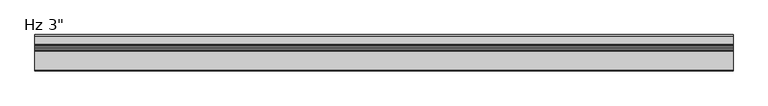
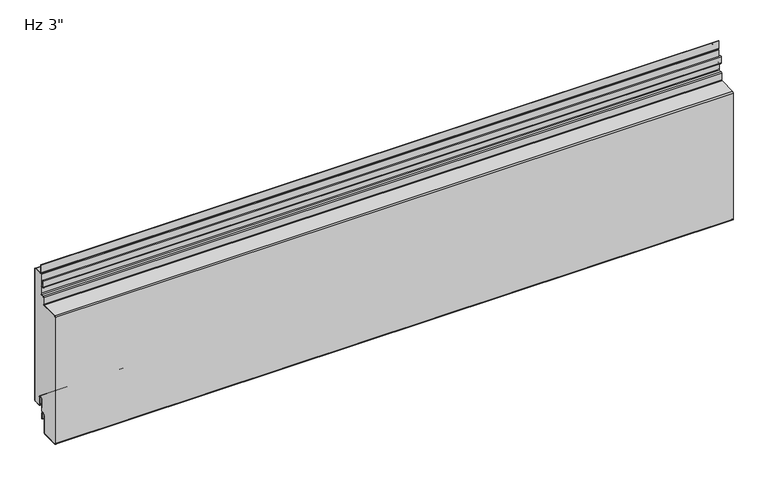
"""IFC4 building model written with IfcOpenShell, lengths in millimetres: plate geometry."""

from ifc_helpers import new_model, si_unit, point, frame, frame_2d, origin, place, context, project, spatial, polyline, circle_curve, ellipse_curve, trimmed, segment, composite_curve, outline, extrude, source, transform, mapped, element, save
from ifc_brep_helpers import plane_surface, cylinder_surface, revolved_surface, extruded_surface, advanced_brep


def plate_6b0bea77(model_context):
    return source(origin(), model_context, "Body", "SolidModel", [
        extrude(outline(composite_curve([segment(polyline([(-22.8122051, 259.7620957), (-22.8122051, 303.00625), (-2.3809551, 303.00625)]), True, "CONTINUOUS"), segment(trimmed(circle_curve(frame_2d((-2.3809551, 301.625)), 1.38125), [point((-2.3809551, 303.00625))], [point((-0.9997051, 301.625))], False, "CARTESIAN"), True, "CONTINUOUS"), segment(polyline([(-0.9997051, 301.625), (-0.9997051, 3.175)]), True, "CONTINUOUS"), segment(trimmed(circle_curve(frame_2d((-2.3809551, 3.175)), 1.38125), [point((-0.9997051, 3.175))], [point((-2.3809551, 1.79375))], False, "CARTESIAN"), True, "CONTINUOUS"), segment(polyline([(-2.3809551, 1.79375), (-15.0809548, 1.79375)]), True, "CONTINUOUS"), segment(trimmed(circle_curve(frame_2d((-15.0809548, 3.175)), 1.38125), [point((-15.0809548, 1.79375))], [point((-16.4622048, 3.175))], False, "CARTESIAN"), True, "CONTINUOUS"), segment(polyline([(-16.4622048, 3.175), (-16.4622048, 19.05)]), True, "CONTINUOUS"), segment(trimmed(circle_curve(frame_2d((-21.4309548, 19.05)), 4.96875), [point((-16.4622048, 19.05))], [point((-26.3997048, 19.05))], True, "CARTESIAN"), True, "CONTINUOUS"), segment(polyline([(-26.3997048, 19.05), (-26.3997048, -6.9378562), (-30.952521, -6.9378562)]), True, "CONTINUOUS"), segment(trimmed(circle_curve(frame_2d((-30.952521, -11.9060719)), 4.9682158), [point((-30.952521, -6.9378562))], [point((-35.9207368, -11.9060719))], True, "CARTESIAN"), True, "CONTINUOUS"), segment(polyline([(-35.9207368, -11.9060719), (-35.9207368, -49.8864779)]), True, "CONTINUOUS"), segment(trimmed(circle_curve(frame_2d((-37.3041083, -49.8864779)), 1.3833715), [point((-35.9207368, -49.8864779))], [point((-37.2046907, -51.2662724))], False, "CARTESIAN"), True, "CONTINUOUS"), segment(polyline([(-37.2046907, -51.2662724), (-73.8625914, -51.8500263)]), True, "CONTINUOUS"), segment(trimmed(circle_curve(frame_2d((-73.8185889, -50.4693162)), 1.3814111), [point((-73.8625914, -51.8500263))], [point((-75.2, -50.4693162))], False, "CARTESIAN"), True, "CONTINUOUS"), segment(polyline([(-75.2, -50.4693162), (-75.2, 236.8593805)]), True, "CONTINUOUS"), segment(trimmed(circle_curve(frame_2d((-73.8180277, 236.8593805)), 1.3819723), [point((-75.2, 236.8593805))], [point((-73.9050684, 238.2386091))], False, "CARTESIAN"), True, "CONTINUOUS"), segment(polyline([(-73.9050684, 238.2386091), (-34.8138889, 238.9809457)]), True, "CONTINUOUS"), segment(trimmed(circle_curve(frame_2d((-34.9308757, 241.5793906)), 2.601077), [point((-34.8138889, 238.9809457))], [point((-32.3297987, 241.5793906))], True, "CARTESIAN"), True, "CONTINUOUS"), segment(polyline([(-32.3297987, 241.5793906), (-32.3297987, 255.4979098)]), True, "CONTINUOUS"), segment(trimmed(circle_curve(frame_2d((-30.9520524, 255.4979098)), 1.3777463), [point((-32.3297987, 255.4979098))], [point((-31.0261331, 256.873663))], False, "CARTESIAN"), True, "CONTINUOUS"), segment(polyline([(-31.0261331, 256.873663), (-25.2631616, 257.1782012)]), True, "CONTINUOUS"), segment(trimmed(circle_curve(frame_2d((-25.3997048, 259.7620957)), 2.5874998), [point((-25.2631616, 257.1782012))], [point((-22.8122051, 259.7620957))], True, "CARTESIAN"), True, "CONTINUOUS")], self_intersect=False)), frame((-730.0, 0.0, 0.0), z_axis=(1.0, 0.0, 0.0), x_axis=(0.0, 1.0, 0.0)), (0.0, 0.0, 1.0), 1460.0),
        extrude(outline(composite_curve([segment(polyline([(-25.4, 0.79375), (-26.4, 0.79375), (-26.4, 19.05)]), True, "CONTINUOUS"), segment(trimmed(circle_curve(frame_2d((-21.43125, 19.05)), 4.96875), [point((-26.4, 19.05))], [point((-16.4625, 19.05))], False, "CARTESIAN"), True, "CONTINUOUS"), segment(polyline([(-16.4625, 19.05), (-16.4625, 3.175)]), True, "CONTINUOUS"), segment(trimmed(circle_curve(frame_2d((-15.08125, 3.175)), 1.38125), [point((-16.4625, 3.175))], [point((-15.08125, 1.79375))], True, "CARTESIAN"), True, "CONTINUOUS"), segment(polyline([(-15.08125, 1.79375), (-2.38125, 1.79375)]), True, "CONTINUOUS"), segment(trimmed(circle_curve(frame_2d((-2.38125, 3.175)), 1.38125), [point((-2.38125, 1.79375))], [point((-1.0, 3.175))], True, "CARTESIAN"), True, "CONTINUOUS"), segment(polyline([(-1.0, 3.175), (-1.0, 301.625)]), True, "CONTINUOUS"), segment(trimmed(circle_curve(frame_2d((-2.38125, 301.625)), 1.38125), [point((-1.0, 301.625))], [point((-2.38125, 303.00625))], True, "CARTESIAN"), True, "CONTINUOUS"), segment(polyline([(-2.38125, 303.00625), (-19.446875, 303.00625)]), True, "CONTINUOUS"), segment(trimmed(circle_curve(frame_2d((-19.446875, 305.59375)), 2.5875), [point((-19.446875, 303.00625))], [point((-22.034375, 305.59375))], False, "CARTESIAN"), True, "CONTINUOUS"), segment(polyline([(-22.034375, 305.59375), (-22.034375, 323.05625), (-21.034375, 323.05625), (-21.034375, 305.59375)]), True, "CONTINUOUS"), segment(trimmed(circle_curve(frame_2d((-19.446875, 305.59375)), 1.5875), [point((-21.034375, 305.59375))], [point((-19.446875, 304.00625))], True, "CARTESIAN"), True, "CONTINUOUS"), segment(polyline([(-19.446875, 304.00625), (-2.38125, 304.00625)]), True, "CONTINUOUS"), segment(trimmed(circle_curve(frame_2d((-2.38125, 301.625)), 2.38125), [point((-2.38125, 304.00625))], [point((0.0, 301.625))], False, "CARTESIAN"), True, "CONTINUOUS"), segment(polyline([(0.0, 301.625), (0.0, 3.175)]), True, "CONTINUOUS"), segment(trimmed(circle_curve(frame_2d((-2.38125, 3.175)), 2.38125), [point((0.0, 3.175))], [point((-2.38125, 0.79375))], False, "CARTESIAN"), True, "CONTINUOUS"), segment(polyline([(-2.38125, 0.79375), (-15.08125, 0.79375)]), True, "CONTINUOUS"), segment(trimmed(circle_curve(frame_2d((-15.08125, 3.175)), 2.38125), [point((-15.08125, 0.79375))], [point((-17.4625, 3.175))], False, "CARTESIAN"), True, "CONTINUOUS"), segment(polyline([(-17.4625, 3.175), (-17.4625, 19.05)]), True, "CONTINUOUS"), segment(trimmed(circle_curve(frame_2d((-21.43125, 19.05)), 3.96875), [point((-17.4625, 19.05))], [point((-25.4, 19.05))], True, "CARTESIAN"), True, "CONTINUOUS"), segment(polyline([(-25.4, 19.05), (-25.4, 0.79375)]), True, "CONTINUOUS")], self_intersect=False)), frame((-730.0, 0.0, 0.0), z_axis=(1.0, 0.0, 0.0), x_axis=(0.0, 1.0, 0.0)), (0.0, 0.0, 1.0), 1460.0),
        advanced_brep(
        [(-730.0, -25.4, -23.2171875), (-730.0, -26.9875, -23.2171875), (-730.0, -26.9875, -11.90625), (-730.0, -34.9235365, -11.90625), (-730.0, -34.9235365, -49.8867763), (-730.0, -37.180907, -52.2655484), (-730.0, -73.8674722, -52.8501201), (-730.0, -76.2, -50.4693686), (-730.0, -76.2, 236.8615956), (-730.0, -73.943409, 239.2395804), (-730.0, -34.8409333, 239.9568264), (-730.0, -33.335518, 241.5432031), (-730.0, -33.335518, 255.4970298), (-730.0, -31.080058, 257.8740657), (-730.0, -25.3167321, 258.176781), (-730.0, -23.8125, 259.7620957), (-730.0, -23.8125, 274.6375), (-730.0, -25.4, 276.225), (-730.0, -29.5671875, 276.225), (-730.0, -31.9484375, 278.60625), (-730.0, -31.9484375, 293.0978706), (-730.0, -30.1546875, 293.0978706), (-730.0, -30.1546875, 283.36875), (-730.0, -30.9484375, 283.36875), (-730.0, -30.9484375, 278.60625), (-730.0, -29.5671875, 277.225), (-730.0, -25.4, 277.225), (-730.0, -22.8125, 274.6375), (-730.0, -22.8125, 259.7620957), (-730.0, -25.2643108, 257.178156), (-730.0, -31.0277025, 256.8755067), (-730.0, -32.3357231, 255.4969966), (-730.0, -32.3357231, 241.5432226), (-730.0, -34.8077585, 238.9573879), (-730.0, -73.9057453, 238.2401033), (-730.0, -75.2, 236.8615956), (-730.0, -75.2, -50.4693686), (-730.0, -73.730714, -51.8478244), (-730.0, -37.2049859, -51.2662724), (-730.0, -35.9213722, -49.9171557), (-730.0, -35.9213722, -11.90625), (-730.0, -25.9875, -11.90625), (-730.0, -26.19375, -13.49375), (-730.0, -25.4, -13.49375), (730.0, -25.4, -23.2171875), (730.0, -25.4, -13.49375), (730.0, -26.19375, -13.49375), (730.0, -25.9875, -11.90625), (730.0, -35.9213722, -11.90625), (730.0, -35.9213722, -49.9171557), (730.0, -37.2049859, -51.2662724), (730.0, -73.8628015, -51.8499275), (730.0, -75.1999873, -50.4693656), (730.0, -75.2, 236.8615956), (730.0, -73.9057453, 238.2401033), (730.0, -34.8077585, 238.9573879), (730.0, -32.3357231, 241.5432226), (730.0, -32.3357231, 255.4969966), (730.0, -31.0277025, 256.8755067), (730.0, -25.2643108, 257.178156), (730.0, -22.8125, 259.7620957), (730.0, -22.8125, 274.6375), (730.0, -25.4, 277.225), (730.0, -29.5671875, 277.225), (730.0, -30.9484375, 278.60625), (730.0, -30.9484375, 283.36875), (730.0, -30.1546875, 283.36875), (730.0, -30.1546875, 293.0978706), (730.0, -31.9484375, 293.0978706), (730.0, -31.9484375, 278.60625), (730.0, -29.5671875, 276.225), (730.0, -25.4, 276.225), (730.0, -23.8125, 274.6375), (730.0, -23.8125, 259.7620957), (730.0, -25.3167321, 258.176781), (730.0, -31.080058, 257.8740657), (730.0, -33.335518, 255.4970298), (730.0, -33.335518, 241.5432031), (730.0, -34.8409333, 239.9568264), (730.0, -73.943409, 239.2395804), (730.0, -76.2, 236.8615956), (730.0, -76.2, -50.4693686), (730.0, -73.8674722, -52.8501201), (730.0, -37.180907, -52.2655484), (730.0, -34.9235365, -49.8867763), (730.0, -34.9235365, -11.90625), (730.0, -26.9875, -11.90625), (730.0, -26.9875, -23.2171875)],
        [
            (0, 1, circle_curve(frame((-730.0, -26.19375, -23.2171875), z_axis=(-1.0, 0.0, 0.0), x_axis=(0.0, 0.0, -1.0)), 0.79375)),
            (1, 2),
            (2, 3, circle_curve(frame((-730.0, -30.9555183, -11.90625), z_axis=(1.0, 0.0, 0.0), x_axis=(0.0, 0.0, -1.0)), 3.9680183)),
            (3, 4),
            (4, 5, circle_curve(frame((-730.0, -37.3055732, -49.8867763), z_axis=(-1.0, 0.0, 0.0), x_axis=(0.0, 0.0, -1.0)), 2.3820366)),
            (5, 6),
            (6, 7, circle_curve(frame((-730.0, -73.81875, -50.4693686), z_axis=(-1.0, 0.0, 0.0), x_axis=(0.0, 0.0, -1.0)), 2.38125)),
            (7, 8),
            (8, 9, circle_curve(frame((-730.0, -73.81875, 236.8615956), z_axis=(-1.0, 0.0, 0.0), x_axis=(0.0, 0.0, -1.0)), 2.38125)),
            (9, 10),
            (10, 11, circle_curve(frame((-730.0, -34.9240718, 241.5432031), z_axis=(1.0, 0.0, 0.0), x_axis=(0.0, 0.0, -1.0)), 1.5885537)),
            (11, 12),
            (12, 13, circle_curve(frame((-730.0, -30.9552056, 255.4970298), z_axis=(-1.0, 0.0, 0.0), x_axis=(0.0, 0.0, -1.0)), 2.3803125)),
            (13, 14),
            (14, 15, circle_curve(frame((-730.0, -25.4, 259.7620957), z_axis=(1.0, 0.0, 0.0), x_axis=(0.0, 0.0, -1.0)), 1.5875)),
            (15, 16),
            (16, 17, circle_curve(frame((-730.0, -25.4, 274.6375), z_axis=(1.0, 0.0, 0.0), x_axis=(0.0, 0.0, -1.0)), 1.5875)),
            (17, 18),
            (18, 19, circle_curve(frame((-730.0, -29.5671875, 278.60625), z_axis=(-1.0, 0.0, 0.0), x_axis=(0.0, 0.0, -1.0)), 2.38125)),
            (19, 20),
            (20, 21, ellipse_curve(frame((-730.0, -31.0515625, 293.0978706), z_axis=(-1.0, 0.0, 0.0), x_axis=(0.0, 1.0, 0.0)), 0.896875, 0.7852275)),
            (21, 22),
            (22, 23),
            (23, 24),
            (24, 25, circle_curve(frame((-730.0, -29.5671875, 278.60625), z_axis=(1.0, 0.0, 0.0), x_axis=(0.0, 0.0, -1.0)), 1.38125)),
            (25, 26),
            (26, 27, circle_curve(frame((-730.0, -25.4, 274.6375), z_axis=(-1.0, 0.0, 0.0), x_axis=(0.0, 0.0, -1.0)), 2.5875)),
            (27, 28),
            (28, 29, circle_curve(frame((-730.0, -25.4, 259.7620957), z_axis=(-1.0, 0.0, 0.0), x_axis=(0.0, 0.0, -1.0)), 2.5875)),
            (29, 30),
            (30, 31, circle_curve(frame((-730.0, -30.9553137, 255.4969966), z_axis=(1.0, 0.0, 0.0), x_axis=(0.0, 0.0, -1.0)), 1.3804094)),
            (31, 32),
            (32, 33, circle_curve(frame((-730.0, -34.9241772, 241.5432226), z_axis=(-1.0, 0.0, 0.0), x_axis=(0.0, 0.0, -1.0)), 2.5884541)),
            (33, 34),
            (34, 35, circle_curve(frame((-730.0, -73.81875, 236.8615956), z_axis=(1.0, 0.0, 0.0), x_axis=(0.0, 0.0, -1.0)), 1.38125)),
            (35, 36),
            (36, 37, circle_curve(frame((-730.0, -73.8187219, -50.4693656), z_axis=(1.0, 0.0, 0.0), x_axis=(0.0, 0.0, -1.0)), 1.3812654)),
            (37, 38),
            (38, 39, circle_curve(frame((-730.0, -37.3044035, -49.8864779), z_axis=(1.0, 0.0, 0.0), x_axis=(0.0, 0.0, -1.0)), 1.3833715)),
            (39, 40),
            (40, 41, circle_curve(frame((-730.0, -30.9544361, -11.90625), z_axis=(-1.0, 0.0, 0.0), x_axis=(0.0, 0.0, -1.0)), 4.9669361)),
            (41, 42),
            (42, 43),
            (43, 0),
            (44, 45),
            (45, 46),
            (46, 47),
            (47, 48, circle_curve(frame((730.0, -30.9544361, -11.90625), z_axis=(1.0, 0.0, 0.0), x_axis=(0.0, 0.0, -1.0)), 4.9669361)),
            (48, 49),
            (49, 50, circle_curve(frame((730.0, -37.3044035, -49.8864779), z_axis=(-1.0, 0.0, 0.0), x_axis=(0.0, 0.0, -1.0)), 1.3833715)),
            (50, 51),
            (51, 52, circle_curve(frame((730.0, -73.8187219, -50.4693656), z_axis=(-1.0, 0.0, 0.0), x_axis=(0.0, 0.0, -1.0)), 1.3812654)),
            (52, 53),
            (53, 54, circle_curve(frame((730.0, -73.81875, 236.8615956), z_axis=(-1.0, 0.0, 0.0), x_axis=(0.0, 0.0, -1.0)), 1.38125)),
            (54, 55),
            (55, 56, circle_curve(frame((730.0, -34.9241772, 241.5432226), z_axis=(1.0, 0.0, 0.0), x_axis=(0.0, 0.0, -1.0)), 2.5884541)),
            (56, 57),
            (57, 58, circle_curve(frame((730.0, -30.9553137, 255.4969966), z_axis=(-1.0, 0.0, 0.0), x_axis=(0.0, 0.0, -1.0)), 1.3804094)),
            (58, 59),
            (59, 60, circle_curve(frame((730.0, -25.4, 259.7620957), z_axis=(1.0, 0.0, 0.0), x_axis=(0.0, 0.0, -1.0)), 2.5875)),
            (60, 61),
            (61, 62, circle_curve(frame((730.0, -25.4, 274.6375), z_axis=(1.0, 0.0, 0.0), x_axis=(0.0, 0.0, -1.0)), 2.5875)),
            (62, 63),
            (63, 64, circle_curve(frame((730.0, -29.5671875, 278.60625), z_axis=(-1.0, 0.0, 0.0), x_axis=(0.0, 0.0, -1.0)), 1.38125)),
            (64, 65),
            (65, 66),
            (66, 67),
            (67, 68, ellipse_curve(frame((730.0, -31.0515625, 293.0978706), z_axis=(1.0, 0.0, 0.0), x_axis=(0.0, 1.0, 0.0)), 0.896875, 0.7852275)),
            (68, 69),
            (69, 70, circle_curve(frame((730.0, -29.5671875, 278.60625), z_axis=(1.0, 0.0, 0.0), x_axis=(0.0, 0.0, -1.0)), 2.38125)),
            (70, 71),
            (71, 72, circle_curve(frame((730.0, -25.4, 274.6375), z_axis=(-1.0, 0.0, 0.0), x_axis=(0.0, 0.0, -1.0)), 1.5875)),
            (72, 73),
            (73, 74, circle_curve(frame((730.0, -25.4, 259.7620957), z_axis=(-1.0, 0.0, 0.0), x_axis=(0.0, 0.0, -1.0)), 1.5875)),
            (74, 75),
            (75, 76, circle_curve(frame((730.0, -30.9552056, 255.4970298), z_axis=(1.0, 0.0, 0.0), x_axis=(0.0, 0.0, -1.0)), 2.3803125)),
            (76, 77),
            (77, 78, circle_curve(frame((730.0, -34.9240718, 241.5432031), z_axis=(-1.0, 0.0, 0.0), x_axis=(0.0, 0.0, -1.0)), 1.5885537)),
            (78, 79),
            (79, 80, circle_curve(frame((730.0, -73.81875, 236.8615956), z_axis=(1.0, 0.0, 0.0), x_axis=(0.0, 0.0, -1.0)), 2.38125)),
            (80, 81),
            (81, 82, circle_curve(frame((730.0, -73.81875, -50.4693686), z_axis=(1.0, 0.0, 0.0), x_axis=(0.0, 0.0, -1.0)), 2.38125)),
            (82, 83),
            (83, 84, circle_curve(frame((730.0, -37.3055732, -49.8867763), z_axis=(1.0, 0.0, 0.0), x_axis=(0.0, 0.0, -1.0)), 2.3820366)),
            (84, 85),
            (85, 86, circle_curve(frame((730.0, -30.9555183, -11.90625), z_axis=(-1.0, 0.0, 0.0), x_axis=(0.0, 0.0, -1.0)), 3.9680183)),
            (86, 87),
            (87, 44, circle_curve(frame((730.0, -26.19375, -23.2171875), z_axis=(1.0, 0.0, 0.0), x_axis=(0.0, 0.0, -1.0)), 0.79375)),
            (1, 87),
            (86, 2),
            (85, 3),
            (84, 4),
            (5, 83),
            (82, 6),
            (9, 79),
            (78, 10),
            (11, 77),
            (76, 12),
            (75, 13),
            (74, 14),
            (73, 15),
            (72, 16),
            (71, 17),
            (70, 18),
            (69, 19),
            (43, 45),
            (44, 0),
            (35, 53),
            (52, 36),
            (8, 80),
            (81, 7),
            (34, 54),
            (32, 56),
            (55, 33),
            (38, 50),
            (49, 39),
            (37, 51),
            (20, 68),
            (67, 21),
            (22, 66),
            (65, 23),
            (42, 46),
            (41, 47),
            (48, 40),
            (30, 58),
            (57, 31),
            (28, 60),
            (59, 29),
            (24, 64),
            (63, 25),
            (26, 62),
            (61, 27),
        ],
        [
            plane_surface(frame((-730.0, -76.2, 152.4), z_axis=(-1.0, 0.0, 0.0), x_axis=(0.0, -1.0, 0.0))),
            plane_surface(frame((730.0, -76.2, 152.4), z_axis=(1.0, 0.0, 0.0), x_axis=(0.0, -1.0, 0.0))),
            plane_surface(frame((-730.0, -26.9875, -11.90625), z_axis=(0.0, -1.0, 0.0), x_axis=(1.0, 0.0, 0.0))),
            revolved_surface(polyline([(730.0, -30.9555183, -15.8742683), (-730.0, -30.9555183, -15.8742683)]), (-730.0, -30.9555183, -11.90625), (1.0, 0.0, 0.0)),
            plane_surface(frame((-730.0, -34.9235365, -49.8867763), z_axis=(0.0, 1.0, 0.0), x_axis=(1.0, 0.0, 0.0))),
            plane_surface(frame((-730.0, -73.8674722, -52.8501201), z_axis=(0.0, 0.015932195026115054, -0.999873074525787), x_axis=(1.0, 0.0, 0.0))),
            plane_surface(frame((-730.0, -34.8409333, 239.9568264), z_axis=(0.0, -0.01833964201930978, 0.9998318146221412), x_axis=(1.0, 0.0, 0.0))),
            plane_surface(frame((-730.0, -33.335518, 255.4970298), z_axis=(0.0, -1.0, 0.0), x_axis=(1.0, 0.0, 0.0))),
            cylinder_surface(frame((-730.0, -30.9552056, 255.4970298), z_axis=(-1.0, 0.0, 0.0), x_axis=(0.0, 0.0, -1.0)), 2.3803125),
            plane_surface(frame((-730.0, -25.3167321, 258.176781), z_axis=(0.0, -0.05245211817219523, 0.9986234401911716), x_axis=(1.0, 0.0, 0.0))),
            revolved_surface(polyline([(730.0, -25.4, 258.1745957), (-730.0, -25.4, 258.1745957)]), (-730.0, -25.4, 259.7620957), (1.0, 0.0, 0.0)),
            plane_surface(frame((-730.0, -23.8125, 274.6375), z_axis=(0.0, -1.0, 0.0), x_axis=(1.0, 0.0, 0.0))),
            revolved_surface(polyline([(730.0, -25.4, 273.05), (-730.0, -25.4, 273.05)]), (-730.0, -25.4, 274.6375), (1.0, 0.0, 0.0)),
            plane_surface(frame((-730.0, -29.5671875, 276.225), z_axis=(0.0, 0.0, -1.0), x_axis=(1.0, 0.0, 0.0))),
            cylinder_surface(frame((-730.0, -29.5671875, 278.60625), z_axis=(-1.0, 0.0, 0.0), x_axis=(0.0, 0.0, -1.0)), 2.38125),
            plane_surface(frame((-730.0, -25.4, -23.2171875), z_axis=(0.0, 1.0, 0.0), x_axis=(1.0, 0.0, 0.0))),
            cylinder_surface(frame((-730.0, -26.19375, -23.2171875), z_axis=(-1.0, 0.0, 0.0), x_axis=(0.0, 0.0, -1.0)), 0.79375),
            plane_surface(frame((-730.0, -75.2, -50.4693686), z_axis=(0.0, 1.0, 0.0), x_axis=(1.0, 0.0, 0.0))),
            cylinder_surface(frame((-730.0, -73.81875, 236.8615956), z_axis=(-1.0, 0.0, 0.0), x_axis=(0.0, 0.0, -1.0)), 2.38125),
            cylinder_surface(frame((-730.0, -73.81875, -50.4693686), z_axis=(-1.0, 0.0, 0.0), x_axis=(0.0, 0.0, -1.0)), 2.38125),
            plane_surface(frame((-730.0, -76.2, 236.8615956), z_axis=(0.0, -1.0, 0.0), x_axis=(1.0, 0.0, 0.0))),
            revolved_surface(polyline([(730.0, -73.81875, 235.4803456), (-730.0, -73.81875, 235.4803456)]), (-730.0, -73.81875, 236.8615956), (1.0, 0.0, 0.0)),
            cylinder_surface(frame((-730.0, -34.9241772, 241.5432226), z_axis=(-1.0, 0.0, 0.0), x_axis=(0.0, 0.0, -1.0)), 2.5884541),
            revolved_surface(polyline([(730.0, -37.3044035, -51.269849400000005), (-730.0, -37.3044035, -51.269849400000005)]), (-730.0, -37.3044035, -49.8864779), (1.0, 0.0, 0.0)),
            plane_surface(frame((-730.0, -73.9057453, 238.2401033), z_axis=(0.0, 0.018342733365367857, -0.9998317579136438), x_axis=(1.0, 0.0, 0.0))),
            revolved_surface(polyline([(730.0, -34.9240718, 239.9546494), (-730.0, -34.9240718, 239.9546494)]), (-730.0, -34.9240718, 241.5432031), (1.0, 0.0, 0.0)),
            plane_surface(frame((-730.0, -37.2049859, -51.2662724), z_axis=(0.0, -0.015919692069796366, 0.9998732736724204), x_axis=(1.0, 0.0, 0.0))),
            extruded_surface(trimmed(ellipse_curve(frame((-730.0, -31.0515625, 293.0978706), z_axis=(1.0, 0.0, 0.0), x_axis=(0.0, 1.0, 0.0)), 0.896875, 0.7852275), [point((-730.0, -30.1546875, 293.0978706))], [point((-730.0, -31.9484375, 293.0978706))], True, "CARTESIAN"), (1460.0, 0.0, 0.0), 1460.0),
            revolved_surface(polyline([(730.0, -73.8187219, -51.850631), (-730.0, -73.8187219, -51.850631)]), (-730.0, -73.8187219, -50.4693656), (1.0, 0.0, 0.0)),
            cylinder_surface(frame((-730.0, -37.3055732, -49.8867763), z_axis=(-1.0, 0.0, 0.0), x_axis=(0.0, 0.0, -1.0)), 2.3820366),
            plane_surface(frame((-730.0, -30.9484375, 283.36875), z_axis=(0.0, 0.0, -1.0), x_axis=(1.0, 0.0, 0.0))),
            plane_surface(frame((-730.0, -25.4, -13.49375), z_axis=(0.0, 0.0, 1.0), x_axis=(1.0, 0.0, 0.0))),
            plane_surface(frame((-730.0, -26.19375, -13.49375), z_axis=(0.0, 0.9916655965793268, -0.1288384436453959), x_axis=(1.0, 0.0, 0.0))),
            plane_surface(frame((-730.0, -30.1546875, 283.36875), z_axis=(0.0, 1.0, 0.0), x_axis=(1.0, 0.0, 0.0))),
            plane_surface(frame((-730.0, -35.9213722, -11.90625), z_axis=(0.0, -1.0, 0.0), x_axis=(1.0, 0.0, 0.0))),
            revolved_surface(polyline([(730.0, -30.9553137, 254.1165872), (-730.0, -30.9553137, 254.1165872)]), (-730.0, -30.9553137, 255.4969966), (1.0, 0.0, 0.0)),
            plane_surface(frame((-730.0, -32.3357231, 241.5432226), z_axis=(0.0, 1.0, 0.0), x_axis=(1.0, 0.0, 0.0))),
            cylinder_surface(frame((-730.0, -30.9544361, -11.90625), z_axis=(-1.0, 0.0, 0.0), x_axis=(0.0, 0.0, -1.0)), 4.9669361),
            cylinder_surface(frame((-730.0, -25.4, 259.7620957), z_axis=(-1.0, 0.0, 0.0), x_axis=(0.0, 0.0, -1.0)), 2.5875),
            revolved_surface(polyline([(730.0, -29.5671875, 277.22499999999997), (-730.0, -29.5671875, 277.22499999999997)]), (-730.0, -29.5671875, 278.60625), (1.0, 0.0, 0.0)),
            plane_surface(frame((-730.0, -30.9484375, 278.60625), z_axis=(0.0, 1.0, 0.0), x_axis=(1.0, 0.0, 0.0))),
            plane_surface(frame((-730.0, -31.0277025, 256.8755067), z_axis=(0.0, 0.05244010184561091, -0.9986240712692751), x_axis=(1.0, 0.0, 0.0))),
            cylinder_surface(frame((-730.0, -25.4, 274.6375), z_axis=(-1.0, 0.0, 0.0), x_axis=(0.0, 0.0, -1.0)), 2.5875),
            plane_surface(frame((-730.0, -31.9484375, 293.0978706), z_axis=(0.0, -1.0, 0.0), x_axis=(1.0, 0.0, 0.0))),
            plane_surface(frame((-730.0, -22.8125, 259.7620957), z_axis=(0.0, 1.0, 0.0), x_axis=(1.0, 0.0, 0.0))),
            plane_surface(frame((-730.0, -25.4, 277.225), z_axis=(0.0, 0.0, 1.0), x_axis=(1.0, 0.0, 0.0))),
        ],
        [
            (0, [[1, 2, 3, 4, 5, 6, 7, 8, 9, 10, 11, 12, 13, 14, 15, 16, 17, 18, 19, 20, 21, 22, 23, 24, 25, 26, 27, 28, 29, 30, 31, 32, 33, 34, 35, 36, 37, 38, 39, 40, 41, 42, 43, 44]]),
            (1, [[45, 46, 47, 48, 49, 50, 51, 52, 53, 54, 55, 56, 57, 58, 59, 60, 61, 62, 63, 64, 65, 66, 67, 68, 69, 70, 71, 72, 73, 74, 75, 76, 77, 78, 79, 80, 81, 82, 83, 84, 85, 86, 87, 88]]),
            (2, [[89, -87, 90, -2]]),
            (3, [[-90, -86, 91, -3]]),
            (4, [[-91, -85, 92, -4]]),
            (5, [[93, -83, 94, -6]]),
            (6, [[95, -79, 96, -10]]),
            (7, [[97, -77, 98, -12]]),
            (8, [[-98, -76, 99, -13]]),
            (9, [[-99, -75, 100, -14]]),
            (10, [[-100, -74, 101, -15]]),
            (11, [[-101, -73, 102, -16]]),
            (12, [[-102, -72, 103, -17]]),
            (13, [[-103, -71, 104, -18]]),
            (14, [[-104, -70, 105, -19]]),
            (15, [[106, -45, 107, -44]]),
            (16, [[-107, -88, -89, -1]]),
            (17, [[108, -53, 109, -36]]),
            (18, [[110, -80, -95, -9]]),
            (19, [[-94, -82, 111, -7]]),
            (20, [[-111, -81, -110, -8]]),
            (21, [[112, -54, -108, -35]]),
            (22, [[113, -56, 114, -33]]),
            (23, [[115, -50, 116, -39]]),
            (24, [[-114, -55, -112, -34]]),
            (25, [[-96, -78, -97, -11]]),
            (26, [[117, -51, -115, -38]]),
            (27, [[118, -68, 119, -21]]),
            (28, [[-109, -52, -117, -37]]),
            (29, [[-92, -84, -93, -5]]),
            (30, [[120, -66, 121, -23]]),
            (31, [[122, -46, -106, -43]]),
            (32, [[123, -47, -122, -42]]),
            (33, [[-119, -67, -120, -22]]),
            (34, [[-116, -49, 124, -40]]),
            (35, [[125, -58, 126, -31]]),
            (36, [[-126, -57, -113, -32]]),
            (37, [[-124, -48, -123, -41]]),
            (38, [[127, -60, 128, -29]]),
            (39, [[129, -64, 130, -25]]),
            (40, [[-121, -65, -129, -24]]),
            (41, [[-128, -59, -125, -30]]),
            (42, [[131, -62, 132, -27]]),
            (43, [[-105, -69, -118, -20]]),
            (44, [[-132, -61, -127, -28]]),
            (45, [[-130, -63, -131, -26]]),
        ],
    ),
    ])


if __name__ == "__main__":
    model = new_model("IFC4")
    model_context = context("Model", 3, world=origin())
    ifc_project = project(units=[si_unit("LENGTHUNIT", "METRE", prefix="MILLI")], contexts=[model_context])
    site = spatial("IfcSite", under=ifc_project)
    building = spatial("IfcBuilding", under=site)
    placement = place(None, origin())
    plate_shape = plate_6b0bea77(model_context)
    element("IfcPlate", 1, ObjectType="KIP-12-DWDJ-R19-CP-Hz-F : Hz 3\"", at=placement, inside=building, context=model_context, shape_type="MappedRepresentation", body=[
        mapped(plate_shape, transform((0.0, 0.0, 0.0), x_axis=(1.0, 0.0, 0.0), y_axis=(0.0, 1.0, 0.0), z_axis=(0.0, 0.0, 1.0))),
    ])
    save(model, "model.ifc")
